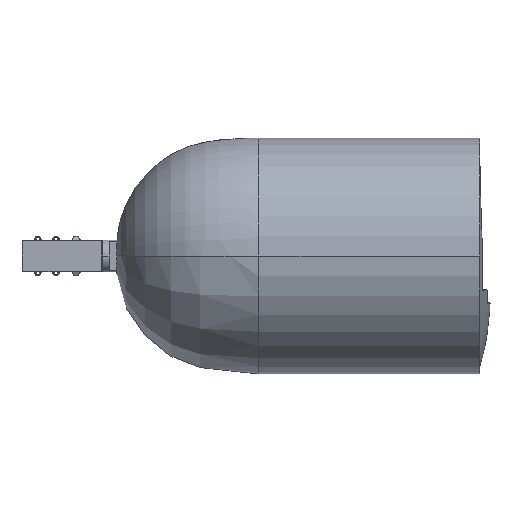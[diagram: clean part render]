
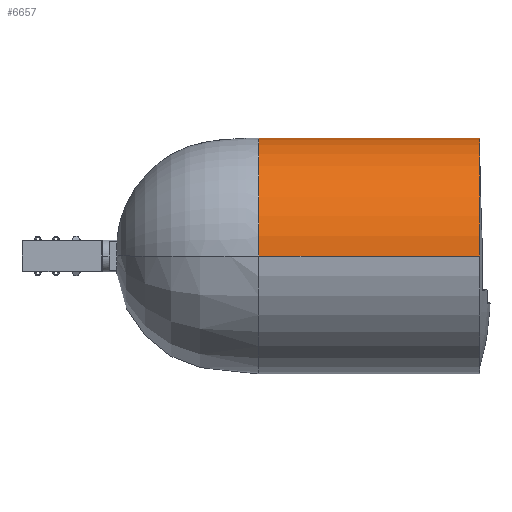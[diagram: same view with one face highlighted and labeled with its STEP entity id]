
A CAD part, left-side view. The second image highlights one B-rep face of the part: STEP entity #6657.
In plain terms, the highlighted cylindrical face has radius 26 mm (diameter 52 mm), a partial arc.
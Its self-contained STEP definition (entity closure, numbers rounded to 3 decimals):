
#6136=DIRECTION('',(0.,-1.,0.));
#6137=VECTOR('',#6136,48.7);
#6138=CARTESIAN_POINT('',(-26.,-34.5,0.));
#6139=LINE('',#6138,#6137);
#6140=CARTESIAN_POINT('',(0.,-34.5,0.));
#6141=DIRECTION('',(0.,1.,0.));
#6142=DIRECTION('',(-1.,0.,0.));
#6143=AXIS2_PLACEMENT_3D('',#6140,#6141,#6142);
#6145=DIRECTION('',(0.,-1.,0.));
#6146=VECTOR('',#6145,48.7);
#6147=CARTESIAN_POINT('',(26.,-34.5,0.));
#6148=LINE('',#6147,#6146);
#6154=CARTESIAN_POINT('',(0.,-83.2,0.));
#6155=DIRECTION('',(0.,1.,0.));
#6156=DIRECTION('',(-1.,0.,0.));
#6157=AXIS2_PLACEMENT_3D('',#6154,#6155,#6156);
#6174=CARTESIAN_POINT('',(-26.,-34.5,0.));
#6175=CARTESIAN_POINT('',(-26.,-83.2,0.));
#6176=VERTEX_POINT('',#6174);
#6177=VERTEX_POINT('',#6175);
#6178=CARTESIAN_POINT('',(26.,-34.5,0.));
#6179=CARTESIAN_POINT('',(26.,-83.2,0.));
#6180=VERTEX_POINT('',#6178);
#6181=VERTEX_POINT('',#6179);
#6643=CARTESIAN_POINT('',(0.,1.01,0.));
#6644=DIRECTION('',(0.,-1.,0.));
#6645=DIRECTION('',(-1.,0.,0.));
#6646=AXIS2_PLACEMENT_3D('',#6643,#6644,#6645);
#6647=CYLINDRICAL_SURFACE('',#6646,26.);
#6649=ORIENTED_EDGE('',*,*,#6648,.F.);
#6650=ORIENTED_EDGE('',*,*,#6299,.T.);
#6652=ORIENTED_EDGE('',*,*,#6651,.T.);
#6654=ORIENTED_EDGE('',*,*,#6653,.F.);
#6655=EDGE_LOOP('',(#6649,#6650,#6652,#6654));
#6656=FACE_OUTER_BOUND('',#6655,.F.);
#6144=CIRCLE('',#6143,26.);
#6158=CIRCLE('',#6157,26.);
#6299=EDGE_CURVE('',#6176,#6180,#6144,.T.);
#6648=EDGE_CURVE('',#6176,#6177,#6139,.T.);
#6651=EDGE_CURVE('',#6180,#6181,#6148,.T.);
#6653=EDGE_CURVE('',#6177,#6181,#6158,.T.);
#6657=ADVANCED_FACE('',(#6656),#6647,.T.);
